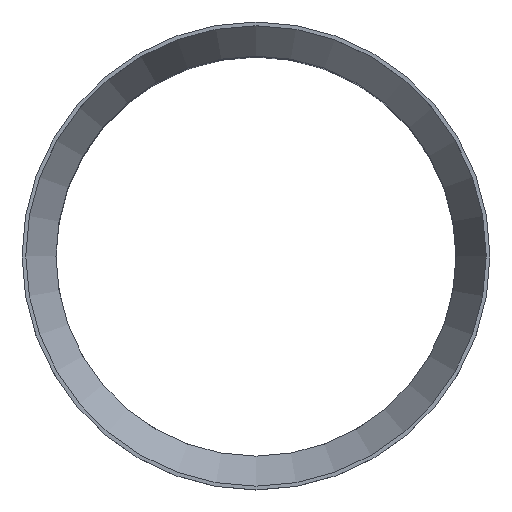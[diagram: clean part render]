
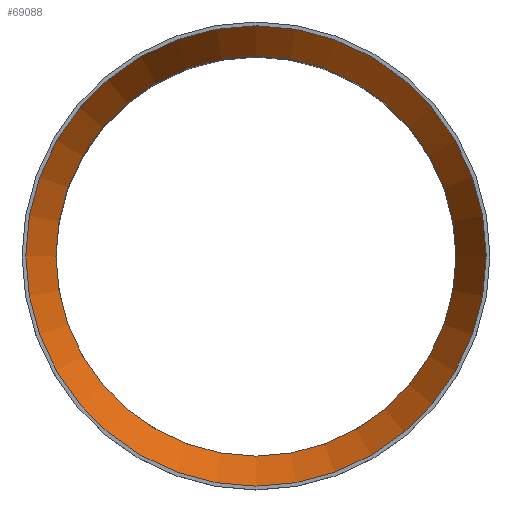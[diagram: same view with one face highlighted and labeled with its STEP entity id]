
A CAD part, top view. The second image highlights one B-rep face of the part: STEP entity #69088.
In plain terms, the highlighted conical face has half-angle 26.565 degrees and reference radius 26.5 mm.
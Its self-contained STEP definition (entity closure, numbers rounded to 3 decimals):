
#33026 = CYLINDRICAL_SURFACE('',#33027,26.5);
#33027 = AXIS2_PLACEMENT_3D('',#33028,#33029,#33030);
#33028 = CARTESIAN_POINT('',(0.,0.,79.8));
#33029 = DIRECTION('',(0.,0.,1.));
#33030 = DIRECTION('',(1.,0.,0.));
#68595 = VERTEX_POINT('',#68596);
#68596 = CARTESIAN_POINT('',(26.5,0.,158.));
#68614 = EDGE_CURVE('',#68595,#68595,#68615,.T.);
#68615 = SURFACE_CURVE('',#68616,(#68621,#68628),.PCURVE_S1.);
#68616 = CIRCLE('',#68617,26.5);
#68617 = AXIS2_PLACEMENT_3D('',#68618,#68619,#68620);
#68618 = CARTESIAN_POINT('',(0.,0.,158.));
#68619 = DIRECTION('',(0.,0.,1.));
#68620 = DIRECTION('',(1.,0.,0.));
#68621 = PCURVE('',#33026,#68622);
#68622 = DEFINITIONAL_REPRESENTATION('',(#68623),#68627);
#68623 = LINE('',#68624,#68625);
#68624 = CARTESIAN_POINT('',(0.,78.2));
#68625 = VECTOR('',#68626,1.);
#68626 = DIRECTION('',(1.,0.));
#68627 = ( GEOMETRIC_REPRESENTATION_CONTEXT(2) 
PARAMETRIC_REPRESENTATION_CONTEXT() REPRESENTATION_CONTEXT('2D SPACE',''
  ) );
#68628 = PCURVE('',#68629,#68634);
#68629 = CONICAL_SURFACE('',#68630,26.5,0.464);
#68630 = AXIS2_PLACEMENT_3D('',#68631,#68632,#68633);
#68631 = CARTESIAN_POINT('',(0.,0.,158.));
#68632 = DIRECTION('',(0.,0.,1.));
#68633 = DIRECTION('',(1.,0.,0.));
#68634 = DEFINITIONAL_REPRESENTATION('',(#68635),#68639);
#68635 = LINE('',#68636,#68637);
#68636 = CARTESIAN_POINT('',(0.,0.));
#68637 = VECTOR('',#68638,1.);
#68638 = DIRECTION('',(1.,0.));
#68639 = ( GEOMETRIC_REPRESENTATION_CONTEXT(2) 
PARAMETRIC_REPRESENTATION_CONTEXT() REPRESENTATION_CONTEXT('2D SPACE',''
  ) );
#69088 = ADVANCED_FACE('',(#69089),#68629,.F.);
#69089 = FACE_BOUND('',#69090,.F.);
#69090 = EDGE_LOOP('',(#69091,#69092,#69112,#69139));
#69091 = ORIENTED_EDGE('',*,*,#68614,.T.);
#69092 = ORIENTED_EDGE('',*,*,#69093,.T.);
#69093 = EDGE_CURVE('',#68595,#69094,#69096,.T.);
#69094 = VERTEX_POINT('',#69095);
#69095 = CARTESIAN_POINT('',(30.5,0.,166.));
#69096 = SEAM_CURVE('',#69097,(#69100,#69106),.PCURVE_S1.);
#69097 = B_SPLINE_CURVE_WITH_KNOTS('',1,(#69098,#69099),.UNSPECIFIED.,
  .F.,.F.,(2,2),(0.,1.),.PIECEWISE_BEZIER_KNOTS.);
#69098 = CARTESIAN_POINT('',(26.5,0.,158.));
#69099 = CARTESIAN_POINT('',(30.5,0.,166.));
#69100 = PCURVE('',#68629,#69101);
#69101 = DEFINITIONAL_REPRESENTATION('',(#69102),#69105);
#69102 = B_SPLINE_CURVE_WITH_KNOTS('',1,(#69103,#69104),.UNSPECIFIED.,
  .F.,.F.,(2,2),(0.,1.),.PIECEWISE_BEZIER_KNOTS.);
#69103 = CARTESIAN_POINT('',(6.283,0.));
#69104 = CARTESIAN_POINT('',(6.283,8.));
#69105 = ( GEOMETRIC_REPRESENTATION_CONTEXT(2) 
PARAMETRIC_REPRESENTATION_CONTEXT() REPRESENTATION_CONTEXT('2D SPACE',''
  ) );
#69106 = PCURVE('',#68629,#69107);
#69107 = DEFINITIONAL_REPRESENTATION('',(#69108),#69111);
#69108 = B_SPLINE_CURVE_WITH_KNOTS('',1,(#69109,#69110),.UNSPECIFIED.,
  .F.,.F.,(2,2),(0.,1.),.PIECEWISE_BEZIER_KNOTS.);
#69109 = CARTESIAN_POINT('',(0.,0.));
#69110 = CARTESIAN_POINT('',(0.,8.));
#69111 = ( GEOMETRIC_REPRESENTATION_CONTEXT(2) 
PARAMETRIC_REPRESENTATION_CONTEXT() REPRESENTATION_CONTEXT('2D SPACE',''
  ) );
#69112 = ORIENTED_EDGE('',*,*,#69113,.F.);
#69113 = EDGE_CURVE('',#69094,#69094,#69114,.T.);
#69114 = SURFACE_CURVE('',#69115,(#69120,#69127),.PCURVE_S1.);
#69115 = CIRCLE('',#69116,30.5);
#69116 = AXIS2_PLACEMENT_3D('',#69117,#69118,#69119);
#69117 = CARTESIAN_POINT('',(0.,0.,166.));
#69118 = DIRECTION('',(0.,0.,1.));
#69119 = DIRECTION('',(1.,0.,0.));
#69120 = PCURVE('',#68629,#69121);
#69121 = DEFINITIONAL_REPRESENTATION('',(#69122),#69126);
#69122 = LINE('',#69123,#69124);
#69123 = CARTESIAN_POINT('',(0.,8.));
#69124 = VECTOR('',#69125,1.);
#69125 = DIRECTION('',(1.,0.));
#69126 = ( GEOMETRIC_REPRESENTATION_CONTEXT(2) 
PARAMETRIC_REPRESENTATION_CONTEXT() REPRESENTATION_CONTEXT('2D SPACE',''
  ) );
#69127 = PCURVE('',#69128,#69133);
#69128 = CYLINDRICAL_SURFACE('',#69129,30.5);
#69129 = AXIS2_PLACEMENT_3D('',#69130,#69131,#69132);
#69130 = CARTESIAN_POINT('',(0.,0.,166.));
#69131 = DIRECTION('',(0.,0.,1.));
#69132 = DIRECTION('',(1.,0.,0.));
#69133 = DEFINITIONAL_REPRESENTATION('',(#69134),#69138);
#69134 = LINE('',#69135,#69136);
#69135 = CARTESIAN_POINT('',(0.,0.));
#69136 = VECTOR('',#69137,1.);
#69137 = DIRECTION('',(1.,0.));
#69138 = ( GEOMETRIC_REPRESENTATION_CONTEXT(2) 
PARAMETRIC_REPRESENTATION_CONTEXT() REPRESENTATION_CONTEXT('2D SPACE',''
  ) );
#69139 = ORIENTED_EDGE('',*,*,#69093,.F.);
